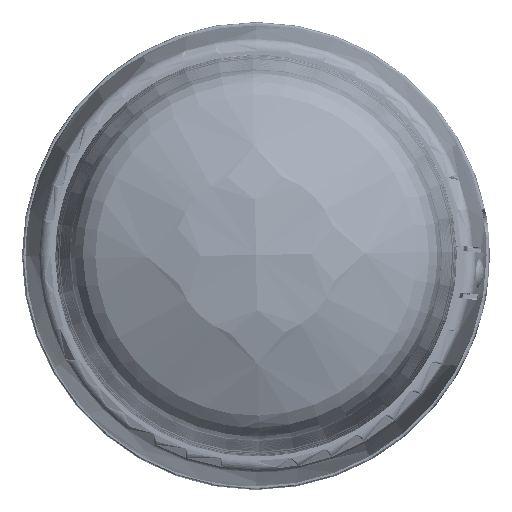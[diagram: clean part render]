
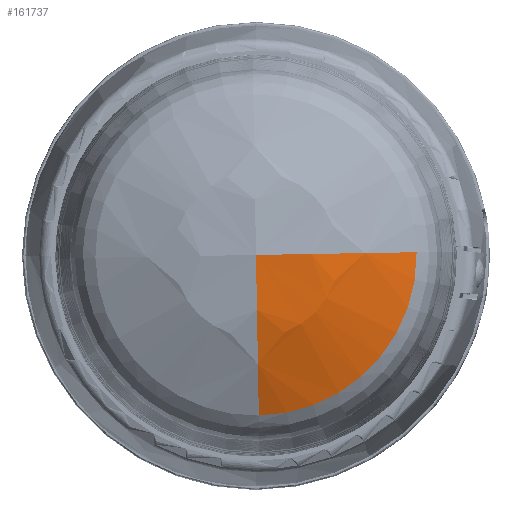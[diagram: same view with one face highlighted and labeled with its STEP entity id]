
A CAD part, top view. The second image highlights one B-rep face of the part: STEP entity #161737.
In plain terms, the highlighted spherical face has radius 120 mm.
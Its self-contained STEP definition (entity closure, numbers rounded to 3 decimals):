
#161649=AXIS2_PLACEMENT_3D('Circle Axis2P3D',#161647,#161648,$) ;
#161706=AXIS2_PLACEMENT_3D('Circle Axis2P3D',#161704,#161705,$) ;
#161725=AXIS2_PLACEMENT_3D('Sphere Axis2P3D',#161722,#161723,#161724) ;
#161729=AXIS2_PLACEMENT_3D('Circle Axis2P3D',#161727,#161728,$) ;
#161644=CARTESIAN_POINT('Vertex',(53.989,0.942,133.385)) ;
#161647=CARTESIAN_POINT('Axis2P3D Location',(0.,0.,133.385)) ;
#161651=CARTESIAN_POINT('Vertex',(0.942,-53.989,133.385)) ;
#161704=CARTESIAN_POINT('Axis2P3D Location',(0.,0.,26.22)) ;
#161708=CARTESIAN_POINT('Vertex',(0.,0.,146.22)) ;
#161722=CARTESIAN_POINT('Axis2P3D Location',(0.,0.,26.22)) ;
#161727=CARTESIAN_POINT('Axis2P3D Location',(0.,0.,26.22)) ;
#161648=DIRECTION('Axis2P3D Direction',(-0.,0.,1.)) ;
#161705=DIRECTION('Axis2P3D Direction',(0.017,-1.,0.)) ;
#161723=DIRECTION('Axis2P3D Direction',(-0.,0.,1.)) ;
#161724=DIRECTION('Axis2P3D XDirection',(0.017,-1.,0.)) ;
#161728=DIRECTION('Axis2P3D Direction',(-1.,-0.017,0.)) ;
#161733=ORIENTED_EDGE('',*,*,#161710,.T.) ;
#161734=ORIENTED_EDGE('',*,*,#161731,.T.) ;
#161735=ORIENTED_EDGE('',*,*,#161653,.F.) ;
#161737=ADVANCED_FACE('265\\MANIFOLD_SOLID_BREP #152935',(#161736),#161726,.T.) ;
#161650=CIRCLE('generated circle',#161649,53.997) ;
#161707=CIRCLE('generated circle',#161706,120.) ;
#161730=CIRCLE('generated circle',#161729,120.) ;
#161653=EDGE_CURVE('',#161645,#161652,#161650,.F.) ;
#161710=EDGE_CURVE('',#161645,#161709,#161707,.T.) ;
#161731=EDGE_CURVE('',#161709,#161652,#161730,.F.) ;
#161732=EDGE_LOOP('',(#161733,#161734,#161735)) ;
#161736=FACE_OUTER_BOUND('',#161732,.T.) ;
#161726=SPHERICAL_SURFACE('',#161725,120.) ;
#161645=VERTEX_POINT('',#161644) ;
#161652=VERTEX_POINT('',#161651) ;
#161709=VERTEX_POINT('',#161708) ;
